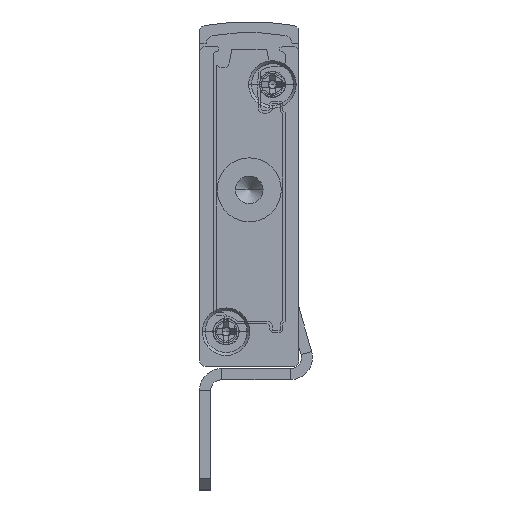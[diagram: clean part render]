
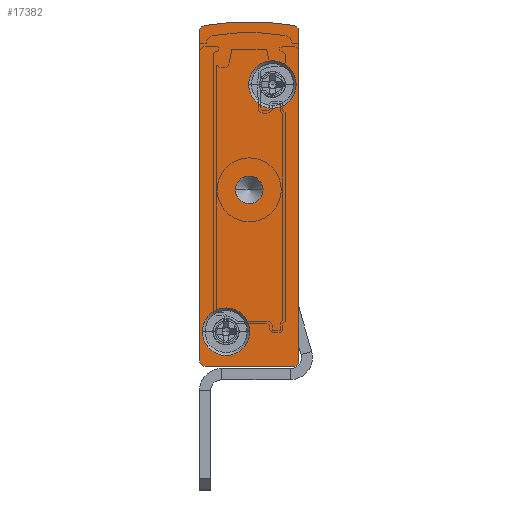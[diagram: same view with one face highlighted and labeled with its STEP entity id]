
A CAD part, front view. The second image highlights one B-rep face of the part: STEP entity #17382.
In plain terms, the highlighted planar face has unit normal (0, -1, 0).
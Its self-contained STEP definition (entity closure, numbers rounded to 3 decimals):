
#1344 = VERTEX_POINT ( 'NONE', #13252 ) ;
#1532 = DIRECTION ( 'NONE',  ( -1., 0., 0. ) ) ;
#1560 = EDGE_CURVE ( 'NONE', #25888, #1344, #18827, .T. ) ;
#1565 = CARTESIAN_POINT ( 'NONE',  ( -8.5, -2.5, 0.5 ) ) ;
#1687 = AXIS2_PLACEMENT_3D ( 'NONE', #26930, #15913, #6608 ) ;
#1790 = AXIS2_PLACEMENT_3D ( 'NONE', #9754, #27647, #24620 ) ;
#1881 = DIRECTION ( 'NONE',  ( -1., 0., 0. ) ) ;
#2423 = VERTEX_POINT ( 'NONE', #25175 ) ;
#2668 = EDGE_CURVE ( 'NONE', #2423, #22062, #21612, .T. ) ;
#2703 = CARTESIAN_POINT ( 'NONE',  ( -6.6, -2.5, 3.15 ) ) ;
#2990 = VECTOR ( 'NONE', #26807, 1000. ) ;
#3315 = ORIENTED_EDGE ( 'NONE', *, *, #2668, .F. ) ;
#3663 = CARTESIAN_POINT ( 'NONE',  ( -8.5, -2.5, 30.402 ) ) ;
#4084 = VERTEX_POINT ( 'NONE', #27625 ) ;
#4116 = FACE_BOUND ( 'NONE', #30856, .T. ) ;
#4187 = AXIS2_PLACEMENT_3D ( 'NONE', #32369, #36835, #1881 ) ;
#4468 = CARTESIAN_POINT ( 'NONE',  ( -0.408, -2.5, 30.893 ) ) ;
#4501 = ORIENTED_EDGE ( 'NONE', *, *, #18955, .F. ) ;
#4964 = EDGE_CURVE ( 'NONE', #20006, #8072, #5554, .T. ) ;
#5176 = CARTESIAN_POINT ( 'NONE',  ( -4.45, -2.5, 3.15 ) ) ;
#5554 = CIRCLE ( 'NONE', #1790, 0.5 ) ;
#6430 = PLANE ( 'NONE',  #25185 ) ;
#6478 = DIRECTION ( 'NONE',  ( -1., 0., 0. ) ) ;
#6482 = CARTESIAN_POINT ( 'NONE',  ( -8.5, -2.5, 0. ) ) ;
#6608 = DIRECTION ( 'NONE',  ( -1., 0., 0. ) ) ;
#6827 = DIRECTION ( 'NONE',  ( 0., 0., -1. ) ) ;
#6993 = ORIENTED_EDGE ( 'NONE', *, *, #8777, .T. ) ;
#7043 = ORIENTED_EDGE ( 'NONE', *, *, #10361, .F. ) ;
#7127 = VERTEX_POINT ( 'NONE', #27093 ) ;
#7871 = DIRECTION ( 'NONE',  ( 0., -1., 0. ) ) ;
#8072 = VERTEX_POINT ( 'NONE', #15441 ) ;
#8303 = CARTESIAN_POINT ( 'NONE',  ( -2.4, -2.5, 25.55 ) ) ;
#8447 = LINE ( 'NONE', #21666, #19376 ) ;
#8777 = EDGE_CURVE ( 'NONE', #4084, #25444, #26194, .T. ) ;
#9386 = CARTESIAN_POINT ( 'NONE',  ( -8.592, -2.5, 30.893 ) ) ;
#9754 = CARTESIAN_POINT ( 'NONE',  ( -0.5, -2.5, 30.402 ) ) ;
#10130 = ORIENTED_EDGE ( 'NONE', *, *, #28804, .F. ) ;
#10137 = CARTESIAN_POINT ( 'NONE',  ( -8.5, -2.5, 30.402 ) ) ;
#10212 = AXIS2_PLACEMENT_3D ( 'NONE', #8303, #25425, #22268 ) ;
#10361 = EDGE_CURVE ( 'NONE', #22062, #11155, #14360, .T. ) ;
#10544 = DIRECTION ( 'NONE',  ( -1., 0., 0. ) ) ;
#11032 = AXIS2_PLACEMENT_3D ( 'NONE', #1565, #21988, #10544 ) ;
#11155 = VERTEX_POINT ( 'NONE', #37093 ) ;
#11214 = CARTESIAN_POINT ( 'NONE',  ( -2.4, -2.5, 25.55 ) ) ;
#11517 = ORIENTED_EDGE ( 'NONE', *, *, #14956, .F. ) ;
#11828 = FACE_OUTER_BOUND ( 'NONE', #25481, .T. ) ;
#12345 = CARTESIAN_POINT ( 'NONE',  ( -4.55, -2.5, 25.55 ) ) ;
#12347 = AXIS2_PLACEMENT_3D ( 'NONE', #33661, #28300, #28040 ) ;
#13222 = EDGE_CURVE ( 'NONE', #25444, #4084, #25814, .T. ) ;
#13229 = ORIENTED_EDGE ( 'NONE', *, *, #27499, .F. ) ;
#13252 = CARTESIAN_POINT ( 'NONE',  ( -0.25, -2.5, 25.55 ) ) ;
#13507 = CIRCLE ( 'NONE', #10212, 2.15 ) ;
#13705 = DIRECTION ( 'NONE',  ( 1., 0., 0. ) ) ;
#13954 = ORIENTED_EDGE ( 'NONE', *, *, #13222, .T. ) ;
#13982 = AXIS2_PLACEMENT_3D ( 'NONE', #34169, #7871, #13705 ) ;
#14303 = CIRCLE ( 'NONE', #13982, 2.15 ) ;
#14360 = CIRCLE ( 'NONE', #11032, 0.5 ) ;
#14745 = ORIENTED_EDGE ( 'NONE', *, *, #4964, .F. ) ;
#14956 = EDGE_CURVE ( 'NONE', #18941, #20006, #19692, .T. ) ;
#15441 = CARTESIAN_POINT ( 'NONE',  ( 0., -2.5, 30.402 ) ) ;
#15913 = DIRECTION ( 'NONE',  ( 0., 1., 0. ) ) ;
#16089 = VERTEX_POINT ( 'NONE', #21597 ) ;
#16217 = EDGE_CURVE ( 'NONE', #7127, #18941, #32976, .T. ) ;
#16339 = EDGE_CURVE ( 'NONE', #30312, #23930, #14303, .T. ) ;
#16539 = AXIS2_PLACEMENT_3D ( 'NONE', #11214, #37651, #17104 ) ;
#16722 = CIRCLE ( 'NONE', #19302, 2.15 ) ;
#17104 = DIRECTION ( 'NONE',  ( 1., 0., 0. ) ) ;
#17382 = ADVANCED_FACE ( 'NONE', ( #32806, #4116, #11828, #28204 ), #6430, .F. ) ;
#18231 = EDGE_CURVE ( 'NONE', #16089, #2423, #37682, .T. ) ;
#18235 = CARTESIAN_POINT ( 'NONE',  ( -8.5, -2.5, 0. ) ) ;
#18469 = CARTESIAN_POINT ( 'NONE',  ( -4.5, -2.5, 7.592 ) ) ;
#18827 = CIRCLE ( 'NONE', #16539, 2.15 ) ;
#18941 = VERTEX_POINT ( 'NONE', #9386 ) ;
#18955 = EDGE_CURVE ( 'NONE', #8072, #16089, #35299, .T. ) ;
#18982 = DIRECTION ( 'NONE',  ( 0., 1., 0. ) ) ;
#19302 = AXIS2_PLACEMENT_3D ( 'NONE', #2703, #20410, #31529 ) ;
#19376 = VECTOR ( 'NONE', #24713, 1000. ) ;
#19692 = CIRCLE ( 'NONE', #34739, 23.658 ) ;
#19893 = VECTOR ( 'NONE', #6827, 1000. ) ;
#20006 = VERTEX_POINT ( 'NONE', #4468 ) ;
#20410 = DIRECTION ( 'NONE',  ( 0., -1., 0. ) ) ;
#21200 = DIRECTION ( 'NONE',  ( -1., 0., 0. ) ) ;
#21533 = CARTESIAN_POINT ( 'NONE',  ( -3.25, -2.5, 16. ) ) ;
#21597 = CARTESIAN_POINT ( 'NONE',  ( 0., -2.5, 0.5 ) ) ;
#21612 = LINE ( 'NONE', #6482, #2990 ) ;
#21666 = CARTESIAN_POINT ( 'NONE',  ( -9., -2.5, 30.402 ) ) ;
#21988 = DIRECTION ( 'NONE',  ( 0., 1., 0. ) ) ;
#22062 = VERTEX_POINT ( 'NONE', #18235 ) ;
#22268 = DIRECTION ( 'NONE',  ( 1., 0., 0. ) ) ;
#23930 = VERTEX_POINT ( 'NONE', #5176 ) ;
#24253 = CARTESIAN_POINT ( 'NONE',  ( -8.75, -2.5, 3.15 ) ) ;
#24620 = DIRECTION ( 'NONE',  ( -1., 0., 0. ) ) ;
#24713 = DIRECTION ( 'NONE',  ( 0., 0., 1. ) ) ;
#25175 = CARTESIAN_POINT ( 'NONE',  ( -0.5, -2.5, 0. ) ) ;
#25185 = AXIS2_PLACEMENT_3D ( 'NONE', #3663, #35530, #21200 ) ;
#25425 = DIRECTION ( 'NONE',  ( 0., -1., 0. ) ) ;
#25444 = VERTEX_POINT ( 'NONE', #21533 ) ;
#25481 = EDGE_LOOP ( 'NONE', ( #33806, #10130, #7043, #3315, #31494, #4501, #14745, #11517 ) ) ;
#25740 = ORIENTED_EDGE ( 'NONE', *, *, #16339, .F. ) ;
#25814 = CIRCLE ( 'NONE', #1687, 1.25 ) ;
#25888 = VERTEX_POINT ( 'NONE', #12345 ) ;
#26194 = CIRCLE ( 'NONE', #4187, 1.25 ) ;
#26807 = DIRECTION ( 'NONE',  ( -1., 0., 0. ) ) ;
#26930 = CARTESIAN_POINT ( 'NONE',  ( -4.5, -2.5, 16. ) ) ;
#27033 = CARTESIAN_POINT ( 'NONE',  ( 0., -2.5, 30.402 ) ) ;
#27093 = CARTESIAN_POINT ( 'NONE',  ( -9., -2.5, 30.402 ) ) ;
#27499 = EDGE_CURVE ( 'NONE', #1344, #25888, #13507, .T. ) ;
#27518 = ORIENTED_EDGE ( 'NONE', *, *, #1560, .F. ) ;
#27565 = EDGE_CURVE ( 'NONE', #23930, #30312, #16722, .T. ) ;
#27625 = CARTESIAN_POINT ( 'NONE',  ( -5.75, -2.5, 16. ) ) ;
#27647 = DIRECTION ( 'NONE',  ( 0., 1., 0. ) ) ;
#28040 = DIRECTION ( 'NONE',  ( -1., 0., 0. ) ) ;
#28204 = FACE_BOUND ( 'NONE', #31065, .T. ) ;
#28300 = DIRECTION ( 'NONE',  ( 0., 1., 0. ) ) ;
#28804 = EDGE_CURVE ( 'NONE', #11155, #7127, #8447, .T. ) ;
#29421 = EDGE_LOOP ( 'NONE', ( #13229, #27518 ) ) ;
#30312 = VERTEX_POINT ( 'NONE', #24253 ) ;
#30856 = EDGE_LOOP ( 'NONE', ( #36024, #25740 ) ) ;
#31065 = EDGE_LOOP ( 'NONE', ( #6993, #13954 ) ) ;
#31494 = ORIENTED_EDGE ( 'NONE', *, *, #18231, .F. ) ;
#31529 = DIRECTION ( 'NONE',  ( 1., 0., 0. ) ) ;
#32369 = CARTESIAN_POINT ( 'NONE',  ( -4.5, -2.5, 16. ) ) ;
#32454 = AXIS2_PLACEMENT_3D ( 'NONE', #10137, #18982, #1532 ) ;
#32806 = FACE_BOUND ( 'NONE', #29421, .T. ) ;
#32976 = CIRCLE ( 'NONE', #32454, 0.5 ) ;
#33661 = CARTESIAN_POINT ( 'NONE',  ( -0.5, -2.5, 0.5 ) ) ;
#33806 = ORIENTED_EDGE ( 'NONE', *, *, #16217, .F. ) ;
#34169 = CARTESIAN_POINT ( 'NONE',  ( -6.6, -2.5, 3.15 ) ) ;
#34739 = AXIS2_PLACEMENT_3D ( 'NONE', #18469, #35960, #6478 ) ;
#35299 = LINE ( 'NONE', #27033, #19893 ) ;
#35530 = DIRECTION ( 'NONE',  ( 0., 1., 0. ) ) ;
#35960 = DIRECTION ( 'NONE',  ( 0., 1., 0. ) ) ;
#36024 = ORIENTED_EDGE ( 'NONE', *, *, #27565, .F. ) ;
#36835 = DIRECTION ( 'NONE',  ( 0., 1., 0. ) ) ;
#37093 = CARTESIAN_POINT ( 'NONE',  ( -9., -2.5, 0.5 ) ) ;
#37651 = DIRECTION ( 'NONE',  ( 0., -1., 0. ) ) ;
#37682 = CIRCLE ( 'NONE', #12347, 0.5 ) ;
